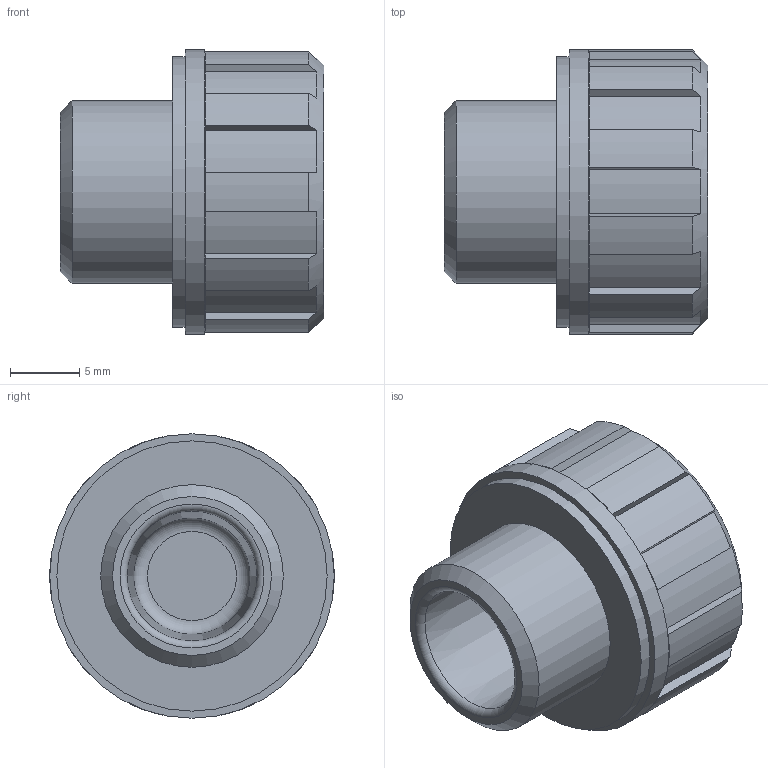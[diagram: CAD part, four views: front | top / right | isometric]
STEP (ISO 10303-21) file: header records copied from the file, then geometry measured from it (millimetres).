
FILE_DESCRIPTION( ( 'STEP AP203' ), '1' );
FILE_NAME( 'C:/Temp/Ganter_Step_05_03_2020/data/3_5/gn548_1/Plug GN 548.1-G1_4-A.stp', '2020-03-12T13:35:43', ( 'License CC BY-ND 4.0' ), ( 'CADENAS' ), ' ', 'PARTsolutions', ' ' );
FILE_SCHEMA( ( 'CONFIG_CONTROL_DESIGN' ) );
Length unit declared in the file: millimetre
Products named in the file (1): _Plug GN 548.1-G1/4-A
Bounding box: 19 x 20.5 x 20.5 mm (x, y, z)
Volume: 3536.9 mm3; surface area: 2164.6 mm2
Topology: 1 solids, 1 shells, 56 faces, 145 edges, 96 vertices
Faces by surface type: plane 27, cylinder 24, cone 3, torus 2
Full cylindrical faces by diameter (mm): 13.157 x1, 18.636 x1, 19.475 x1, 20.5 x1
Entity records: 1728 total; most frequent: CARTESIAN_POINT 345, DIRECTION 282, ORIENTED_EDGE 268, EDGE_CURVE 134, AXIS2_PLACEMENT_3D 111, VERTEX_POINT 94, EDGE_LOOP 70, FACE_OUTER_BOUND 62
